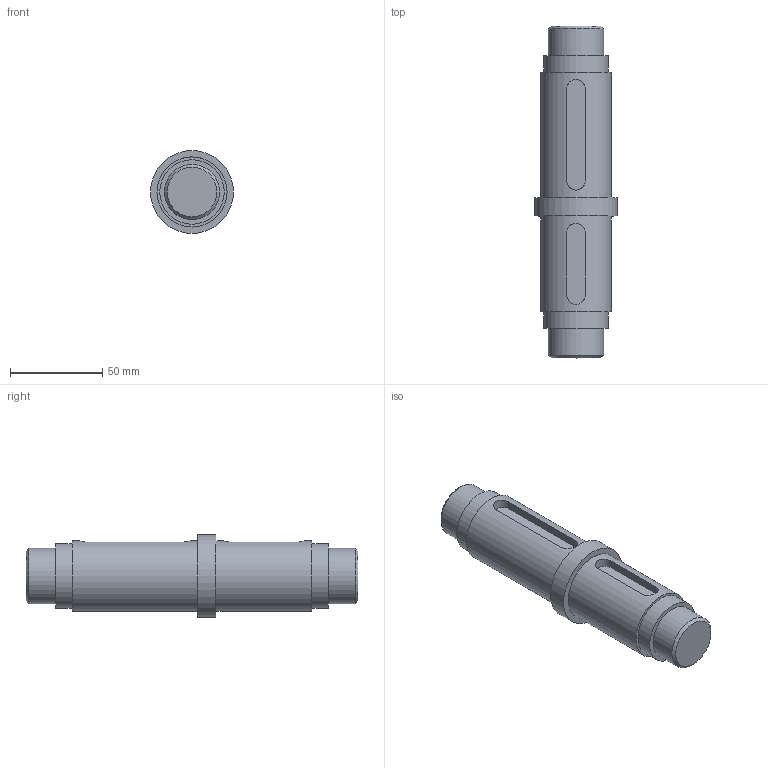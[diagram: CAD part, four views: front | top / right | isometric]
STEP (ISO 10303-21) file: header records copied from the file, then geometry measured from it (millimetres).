
FILE_DESCRIPTION(('Open CASCADE Model'),'2;1');
FILE_NAME('Open CASCADE Shape Model','2026-09-15T22:57:42',('Author'),( 'Open CASCADE'),'Open CASCADE STEP processor 7.9','build123d', 'Unknown');
FILE_SCHEMA(('AUTOMOTIVE_DESIGN { 1 0 10303 214 1 1 1 1 }'));
Length unit declared in the file: millimetre
Products named in the file (1): COMPOUND
Bounding box: 45 x 180 x 45 mm (x, y, z)
Volume: 186958.5 mm3; surface area: 24753.3 mm2
Topology: 1 solids, 1 shells, 27 faces, 49 edges, 32 vertices
Faces by surface type: plane 14, cylinder 11, cone 2
Full cylindrical faces by diameter (mm): 30 x2, 35 x2, 38 x2, 45 x1
Entity records: 1692 total; most frequent: CARTESIAN_POINT 645, DIRECTION 195, ORIENTED_EDGE 98, PCURVE 98, DEFINITIONAL_REPRESENTATION 98, LINE 85, VECTOR 85, EDGE_CURVE 49
